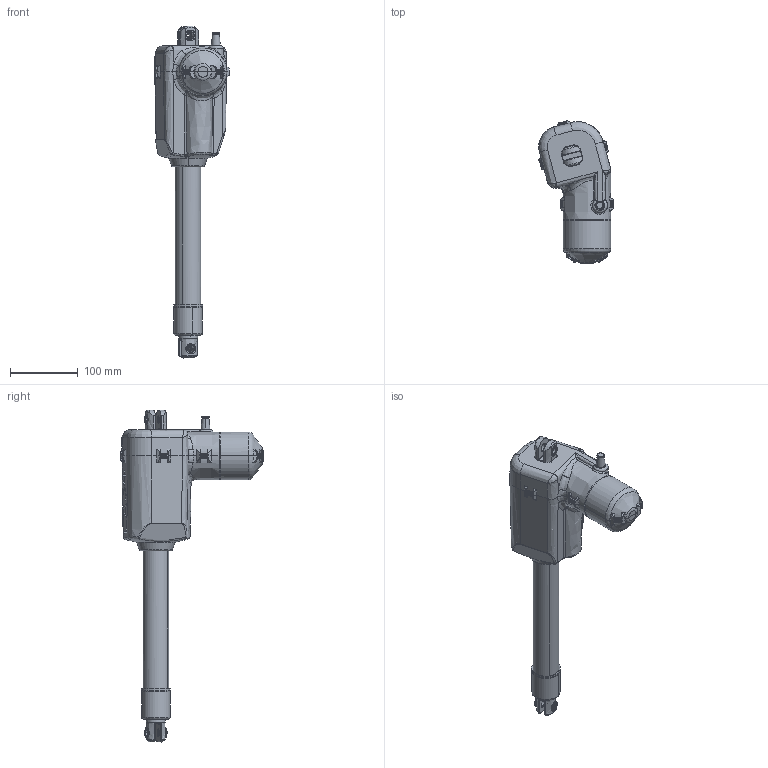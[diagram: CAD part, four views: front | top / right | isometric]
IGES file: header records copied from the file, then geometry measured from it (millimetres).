
Start section:  PTC IGES file: 343100_0xxxx0ax.igs
Global section: file name: 343100_0xxxx0ax.igs; native system: Pro/ENGINEER by Parametric Technology Corporation; preprocessor: 2005110; author: abl; organization: Unknown; date: 060202.100704; units: millimetre
Bounding box: 109.68 x 209.65 x 488.49 mm (x, y, z)
Volume: 1934008 mm3; surface area: 196767.8 mm2
Topology: 3 solids, 3 shells, 958 faces, 2640 edges, 1650 vertices
Faces by surface type: bspline 617, revolution 341
